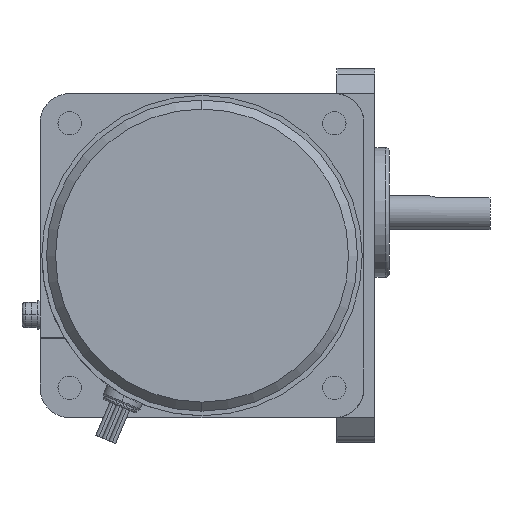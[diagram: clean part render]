
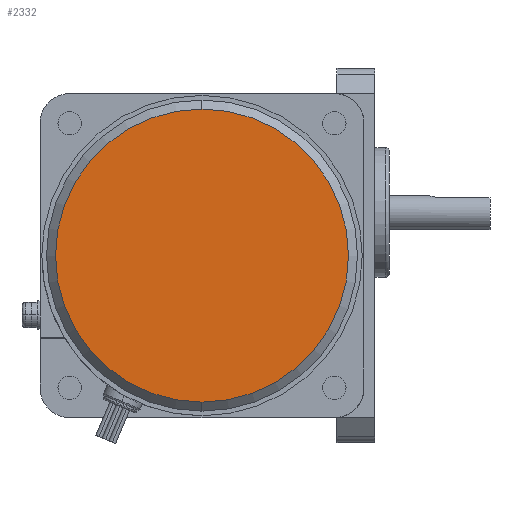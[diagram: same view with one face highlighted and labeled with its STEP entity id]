
A CAD part, left-side view. The second image highlights one B-rep face of the part: STEP entity #2332.
In plain terms, the highlighted planar face has unit normal (-1, 0, 0).
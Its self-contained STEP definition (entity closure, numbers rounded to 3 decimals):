
#2312=CARTESIAN_POINT('POINT186091',(-173.,48.,28.7));
#2313=VERTEX_POINT('VERTEX186091',#2312);
#2314=CARTESIAN_POINT('POINT186092',(-173.,48.,-52.7));
#2315=VERTEX_POINT('VERTEX186092',#2314);
#2316=CARTESIAN_POINT('POS314145',(-173.,48.,-12.));
#2317=DIRECTION('DIR474105',(1.,0.,0.));
#2318=DIRECTION('DIR474106',(0.,0.,1.));
#2319=AXIS2_PLACEMENT_3D('AXIS159961',#2316,#2317,#2318);
#2320=CIRCLE('ELLIPSE74886',#2319,40.7);
#2321=EDGE_CURVE('EDGE284247',#2313,#2315,#2320,.T.);
#2322=ORIENTED_EDGE('COEDGE568475',*,*,#2321,.F.);
#2323=EDGE_CURVE('EDGE284248',#2315,#2313,#2320,.T.);
#2324=ORIENTED_EDGE('COEDGE568476',*,*,#2323,.F.);
#2325=EDGE_LOOP('NONE',(#2322,#2324));
#2326=FACE_BOUND('LOOP1',#2325,.T.);
#2327=CARTESIAN_POINT('POS314146',(-173.,48.,
   8.35));
#2328=DIRECTION('DIR474107',(-1.,0.,0.));
#2329=DIRECTION('DIR474108',(0.,1.,0.));
#2330=AXIS2_PLACEMENT_3D('AXIS159962',#2327,#2328,#2329);
#2331=PLANE('PLANE50754',#2330);
#2332=ADVANCED_FACE('FACE116689',(#2326),#2331,.T.);
